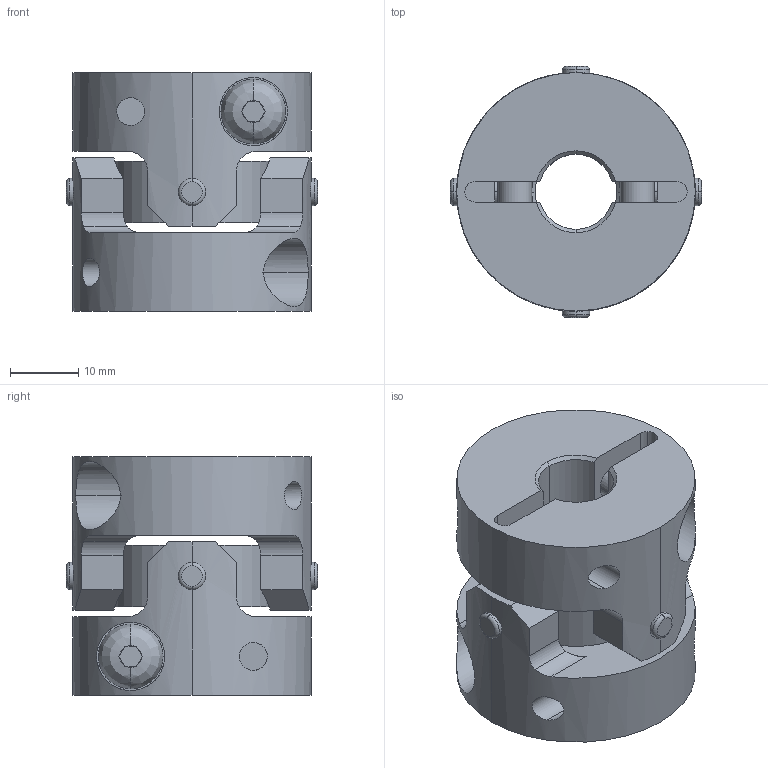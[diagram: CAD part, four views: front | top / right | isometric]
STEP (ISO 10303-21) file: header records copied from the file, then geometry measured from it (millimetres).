
FILE_DESCRIPTION((''),'2;1');
FILE_NAME('UA-35C-11×12.stp','2013-05-22T08:47:25',(''),(''),'AutoCAD STEP 2000i','AutoCAD 2000i',', , ');
FILE_SCHEMA(('CONFIG_CONTROL_DESIGN'));
Length unit declared in the file: millimetre
Products named in the file (6): UA-35C-8×8; 忣兜1; UA-3502-D08-1; BTN-M5; UA-3502-D08; UA35-SEN
Assembly tree (6 placements, depth 3):
  UA-35C-8×8
    忣兜1
    UA-3502-D08-1
      BTN-M5
    UA-3502-D08
      BTN-M5
    UA35-SEN
Bounding box: 36.83 x 36.83 x 35 mm (x, y, z)
Volume: 22356.5 mm3; surface area: 11949.7 mm2
Topology: 1 solids, 1 shells, 250 faces, 646 edges, 408 vertices
Faces by surface type: plane 122, cylinder 96, cone 16, bspline 8, torus 8
Entity records: 9647 total; most frequent: CARTESIAN_POINT 3391, ORIENTED_EDGE 1292, DIRECTION 1288, EDGE_CURVE 646, AXIS2_PLACEMENT_3D 497, VERTEX_POINT 408, VECTOR 294, LINE 294
